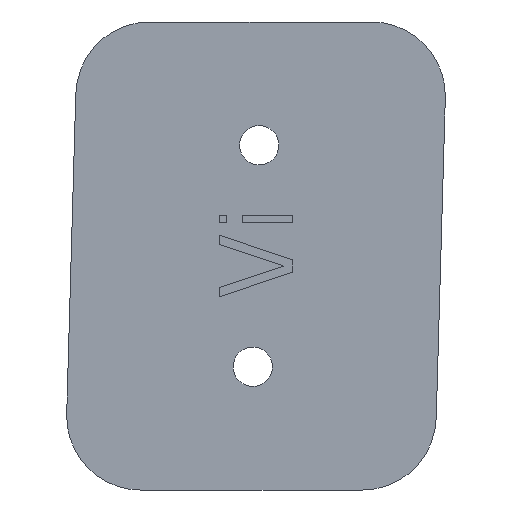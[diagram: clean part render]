
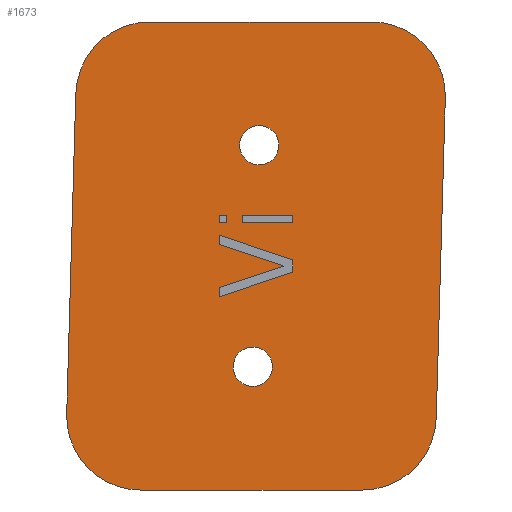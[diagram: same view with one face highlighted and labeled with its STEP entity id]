
A CAD part, front view. The second image highlights one B-rep face of the part: STEP entity #1673.
In plain terms, the highlighted planar face has unit normal (0, -1, 0).
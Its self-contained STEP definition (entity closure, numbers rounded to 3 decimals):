
#2=DIRECTION('',(-0.028,0.,-1.));
#3=VECTOR('',#2,26.01);
#4=CARTESIAN_POINT('',(-14.633,-22.25,13.17));
#5=LINE('',#4,#3);
#6=CARTESIAN_POINT('',(-8.635,-22.25,13.));
#7=DIRECTION('',(0.,-1.,0.));
#8=DIRECTION('',(0.,0.,1.));
#9=AXIS2_PLACEMENT_3D('',#6,#7,#8);
#11=DIRECTION('',(-1.,0.,0.));
#12=VECTOR('',#11,18.007);
#13=CARTESIAN_POINT('',(9.372,-22.25,19.));
#14=LINE('',#13,#12);
#15=CARTESIAN_POINT('',(9.372,-22.25,13.));
#16=DIRECTION('',(0.,-1.,0.));
#17=DIRECTION('',(1.,0.,-0.028));
#18=AXIS2_PLACEMENT_3D('',#15,#16,#17);
#20=DIRECTION('',(0.028,0.,1.));
#21=VECTOR('',#20,26.01);
#22=CARTESIAN_POINT('',(14.633,-22.25,-13.17));
#23=LINE('',#22,#21);
#24=CARTESIAN_POINT('',(8.635,-22.25,-13.));
#25=DIRECTION('',(0.,-1.,0.));
#26=DIRECTION('',(0.,0.,-1.));
#27=AXIS2_PLACEMENT_3D('',#24,#25,#26);
#29=DIRECTION('',(1.,0.,0.));
#30=VECTOR('',#29,18.007);
#31=CARTESIAN_POINT('',(-9.372,-22.25,-19.));
#32=LINE('',#31,#30);
#33=CARTESIAN_POINT('',(-9.372,-22.25,-13.));
#34=DIRECTION('',(0.,-1.,0.));
#35=DIRECTION('',(-1.,0.,0.028));
#36=AXIS2_PLACEMENT_3D('',#33,#34,#35);
#38=CARTESIAN_POINT('',(-0.255,-22.25,-8.996));
#39=DIRECTION('',(0.,-1.,0.));
#40=DIRECTION('',(1.,0.,0.));
#41=AXIS2_PLACEMENT_3D('',#38,#39,#40);
#43=CARTESIAN_POINT('',(-0.255,-22.25,-8.996));
#44=DIRECTION('',(0.,-1.,0.));
#45=DIRECTION('',(-1.,0.,0.));
#46=AXIS2_PLACEMENT_3D('',#43,#44,#45);
#48=CARTESIAN_POINT('',(0.255,-22.25,8.996));
#49=DIRECTION('',(0.,-1.,0.));
#50=DIRECTION('',(1.,0.,0.));
#51=AXIS2_PLACEMENT_3D('',#48,#49,#50);
#53=CARTESIAN_POINT('',(0.255,-22.25,8.996));
#54=DIRECTION('',(0.,-1.,0.));
#55=DIRECTION('',(-1.,0.,0.));
#56=AXIS2_PLACEMENT_3D('',#53,#54,#55);
#58=DIRECTION('',(-0.948,0.,-0.317));
#59=VECTOR('',#58,5.519);
#60=CARTESIAN_POINT('',(2.234,-22.25,-0.813));
#61=LINE('',#60,#59);
#62=DIRECTION('',(0.,0.,-1.));
#63=VECTOR('',#62,0.75);
#64=CARTESIAN_POINT('',(-3.,-22.25,-2.563));
#65=LINE('',#64,#63);
#66=DIRECTION('',(0.949,0.,0.316));
#67=VECTOR('',#66,6.325);
#68=CARTESIAN_POINT('',(-3.,-22.25,-3.313));
#69=LINE('',#68,#67);
#70=DIRECTION('',(0.,0.,1.));
#71=VECTOR('',#70,1.);
#72=CARTESIAN_POINT('',(3.,-22.25,-1.312));
#73=LINE('',#72,#71);
#74=DIRECTION('',(-0.949,0.,0.316));
#75=VECTOR('',#74,6.325);
#76=CARTESIAN_POINT('',(3.,-22.25,-0.313));
#77=LINE('',#76,#75);
#78=DIRECTION('',(0.,0.,-1.));
#79=VECTOR('',#78,0.75);
#80=CARTESIAN_POINT('',(-3.,-22.25,1.687));
#81=LINE('',#80,#79);
#82=DIRECTION('',(0.948,0.,-0.317));
#83=VECTOR('',#82,5.519);
#84=CARTESIAN_POINT('',(-3.,-22.25,0.937));
#85=LINE('',#84,#83);
#86=DIRECTION('',(-1.,0.,0.));
#87=VECTOR('',#86,4.085);
#88=CARTESIAN_POINT('',(3.,-22.25,3.312));
#89=LINE('',#88,#87);
#90=DIRECTION('',(0.,0.,-1.));
#91=VECTOR('',#90,0.625);
#92=CARTESIAN_POINT('',(-1.085,-22.25,3.312));
#93=LINE('',#92,#91);
#94=DIRECTION('',(1.,0.,0.));
#95=VECTOR('',#94,4.085);
#96=CARTESIAN_POINT('',(-1.085,-22.25,2.688));
#97=LINE('',#96,#95);
#98=DIRECTION('',(0.,0.,1.));
#99=VECTOR('',#98,0.625);
#100=CARTESIAN_POINT('',(3.,-22.25,2.688));
#101=LINE('',#100,#99);
#102=DIRECTION('',(-1.,0.,0.));
#103=VECTOR('',#102,0.638);
#104=CARTESIAN_POINT('',(-2.362,-22.25,3.312));
#105=LINE('',#104,#103);
#106=DIRECTION('',(0.,0.,-1.));
#107=VECTOR('',#106,0.625);
#108=CARTESIAN_POINT('',(-3.,-22.25,3.312));
#109=LINE('',#108,#107);
#110=DIRECTION('',(1.,0.,0.));
#111=VECTOR('',#110,0.638);
#112=CARTESIAN_POINT('',(-3.,-22.25,2.688));
#113=LINE('',#112,#111);
#114=DIRECTION('',(0.,0.,1.));
#115=VECTOR('',#114,0.625);
#116=CARTESIAN_POINT('',(-2.362,-22.25,2.688));
#117=LINE('',#116,#115);
#1480=CARTESIAN_POINT('',(2.234,-22.25,-0.813));
#1481=CARTESIAN_POINT('',(-3.,-22.25,-2.563));
#1482=VERTEX_POINT('',#1480);
#1483=VERTEX_POINT('',#1481);
#1484=CARTESIAN_POINT('',(-3.,-22.25,-3.313));
#1485=VERTEX_POINT('',#1484);
#1486=CARTESIAN_POINT('',(3.,-22.25,-1.312));
#1487=VERTEX_POINT('',#1486);
#1488=CARTESIAN_POINT('',(3.,-22.25,-0.313));
#1489=VERTEX_POINT('',#1488);
#1498=CARTESIAN_POINT('',(3.,-22.25,3.312));
#1499=CARTESIAN_POINT('',(-1.085,-22.25,3.312));
#1500=VERTEX_POINT('',#1498);
#1501=VERTEX_POINT('',#1499);
#1502=CARTESIAN_POINT('',(-1.085,-22.25,2.688));
#1503=VERTEX_POINT('',#1502);
#1504=CARTESIAN_POINT('',(3.,-22.25,2.688));
#1505=VERTEX_POINT('',#1504);
#1506=CARTESIAN_POINT('',(1.345,-22.25,-8.996));
#1507=CARTESIAN_POINT('',(-1.855,-22.25,-8.996));
#1508=VERTEX_POINT('',#1506);
#1509=VERTEX_POINT('',#1507);
#1518=CARTESIAN_POINT('',(1.855,-22.25,8.996));
#1519=CARTESIAN_POINT('',(-1.345,-22.25,8.996));
#1520=VERTEX_POINT('',#1518);
#1521=VERTEX_POINT('',#1519);
#1542=CARTESIAN_POINT('',(-3.,-22.25,1.687));
#1543=VERTEX_POINT('',#1542);
#1544=CARTESIAN_POINT('',(-3.,-22.25,0.937));
#1545=VERTEX_POINT('',#1544);
#1546=CARTESIAN_POINT('',(-2.362,-22.25,3.312));
#1547=CARTESIAN_POINT('',(-3.,-22.25,3.312));
#1548=VERTEX_POINT('',#1546);
#1549=VERTEX_POINT('',#1547);
#1550=CARTESIAN_POINT('',(-3.,-22.25,2.688));
#1551=VERTEX_POINT('',#1550);
#1552=CARTESIAN_POINT('',(-2.362,-22.25,2.688));
#1553=VERTEX_POINT('',#1552);
#1554=CARTESIAN_POINT('',(-14.633,-22.25,13.17));
#1555=CARTESIAN_POINT('',(-15.37,-22.25,-12.83));
#1556=VERTEX_POINT('',#1554);
#1557=VERTEX_POINT('',#1555);
#1558=CARTESIAN_POINT('',(-9.372,-22.25,-19.));
#1559=VERTEX_POINT('',#1558);
#1560=CARTESIAN_POINT('',(8.635,-22.25,-19.));
#1561=VERTEX_POINT('',#1560);
#1562=CARTESIAN_POINT('',(14.633,-22.25,-13.17));
#1563=VERTEX_POINT('',#1562);
#1564=CARTESIAN_POINT('',(15.37,-22.25,12.83));
#1565=VERTEX_POINT('',#1564);
#1566=CARTESIAN_POINT('',(9.372,-22.25,19.));
#1567=VERTEX_POINT('',#1566);
#1568=CARTESIAN_POINT('',(-8.635,-22.25,19.));
#1569=VERTEX_POINT('',#1568);
#1602=CARTESIAN_POINT('',(0.,-22.25,0.));
#1603=DIRECTION('',(0.,1.,0.));
#1604=DIRECTION('',(0.,0.,1.));
#1605=AXIS2_PLACEMENT_3D('',#1602,#1603,#1604);
#1606=PLANE('',#1605);
#1608=ORIENTED_EDGE('',*,*,#1607,.F.);
#1610=ORIENTED_EDGE('',*,*,#1609,.F.);
#1612=ORIENTED_EDGE('',*,*,#1611,.F.);
#1614=ORIENTED_EDGE('',*,*,#1613,.F.);
#1616=ORIENTED_EDGE('',*,*,#1615,.F.);
#1618=ORIENTED_EDGE('',*,*,#1617,.F.);
#1620=ORIENTED_EDGE('',*,*,#1619,.F.);
#1622=ORIENTED_EDGE('',*,*,#1621,.F.);
#1623=EDGE_LOOP('',(#1608,#1610,#1612,#1614,#1616,#1618,#1620,#1622));
#1624=FACE_OUTER_BOUND('',#1623,.F.);
#1626=ORIENTED_EDGE('',*,*,#1625,.T.);
#1628=ORIENTED_EDGE('',*,*,#1627,.T.);
#1629=EDGE_LOOP('',(#1626,#1628));
#1630=FACE_BOUND('',#1629,.F.);
#1632=ORIENTED_EDGE('',*,*,#1631,.T.);
#1634=ORIENTED_EDGE('',*,*,#1633,.T.);
#1635=EDGE_LOOP('',(#1632,#1634));
#1636=FACE_BOUND('',#1635,.F.);
#1638=ORIENTED_EDGE('',*,*,#1637,.T.);
#1640=ORIENTED_EDGE('',*,*,#1639,.T.);
#1642=ORIENTED_EDGE('',*,*,#1641,.T.);
#1644=ORIENTED_EDGE('',*,*,#1643,.T.);
#1646=ORIENTED_EDGE('',*,*,#1645,.T.);
#1648=ORIENTED_EDGE('',*,*,#1647,.T.);
#1650=ORIENTED_EDGE('',*,*,#1649,.T.);
#1651=EDGE_LOOP('',(#1638,#1640,#1642,#1644,#1646,#1648,#1650));
#1652=FACE_BOUND('',#1651,.F.);
#1654=ORIENTED_EDGE('',*,*,#1653,.T.);
#1656=ORIENTED_EDGE('',*,*,#1655,.T.);
#1658=ORIENTED_EDGE('',*,*,#1657,.T.);
#1660=ORIENTED_EDGE('',*,*,#1659,.T.);
#1661=EDGE_LOOP('',(#1654,#1656,#1658,#1660));
#1662=FACE_BOUND('',#1661,.F.);
#1664=ORIENTED_EDGE('',*,*,#1663,.T.);
#1666=ORIENTED_EDGE('',*,*,#1665,.T.);
#1668=ORIENTED_EDGE('',*,*,#1667,.T.);
#1670=ORIENTED_EDGE('',*,*,#1669,.T.);
#1671=EDGE_LOOP('',(#1664,#1666,#1668,#1670));
#1672=FACE_BOUND('',#1671,.F.);
#1673=ADVANCED_FACE('',(#1624,#1630,#1636,#1652,#1662,#1672),#1606,.F.);
#10=CIRCLE('',#9,6.);
#19=CIRCLE('',#18,6.);
#28=CIRCLE('',#27,6.);
#37=CIRCLE('',#36,6.);
#42=CIRCLE('',#41,1.6);
#47=CIRCLE('',#46,1.6);
#52=CIRCLE('',#51,1.6);
#57=CIRCLE('',#56,1.6);
#1607=EDGE_CURVE('',#1556,#1557,#5,.T.);
#1609=EDGE_CURVE('',#1569,#1556,#10,.T.);
#1611=EDGE_CURVE('',#1567,#1569,#14,.T.);
#1613=EDGE_CURVE('',#1565,#1567,#19,.T.);
#1615=EDGE_CURVE('',#1563,#1565,#23,.T.);
#1617=EDGE_CURVE('',#1561,#1563,#28,.T.);
#1619=EDGE_CURVE('',#1559,#1561,#32,.T.);
#1621=EDGE_CURVE('',#1557,#1559,#37,.T.);
#1625=EDGE_CURVE('',#1508,#1509,#42,.T.);
#1627=EDGE_CURVE('',#1509,#1508,#47,.T.);
#1631=EDGE_CURVE('',#1520,#1521,#52,.T.);
#1633=EDGE_CURVE('',#1521,#1520,#57,.T.);
#1637=EDGE_CURVE('',#1482,#1483,#61,.T.);
#1639=EDGE_CURVE('',#1483,#1485,#65,.T.);
#1641=EDGE_CURVE('',#1485,#1487,#69,.T.);
#1643=EDGE_CURVE('',#1487,#1489,#73,.T.);
#1645=EDGE_CURVE('',#1489,#1543,#77,.T.);
#1647=EDGE_CURVE('',#1543,#1545,#81,.T.);
#1649=EDGE_CURVE('',#1545,#1482,#85,.T.);
#1653=EDGE_CURVE('',#1500,#1501,#89,.T.);
#1655=EDGE_CURVE('',#1501,#1503,#93,.T.);
#1657=EDGE_CURVE('',#1503,#1505,#97,.T.);
#1659=EDGE_CURVE('',#1505,#1500,#101,.T.);
#1663=EDGE_CURVE('',#1548,#1549,#105,.T.);
#1665=EDGE_CURVE('',#1549,#1551,#109,.T.);
#1667=EDGE_CURVE('',#1551,#1553,#113,.T.);
#1669=EDGE_CURVE('',#1553,#1548,#117,.T.);
